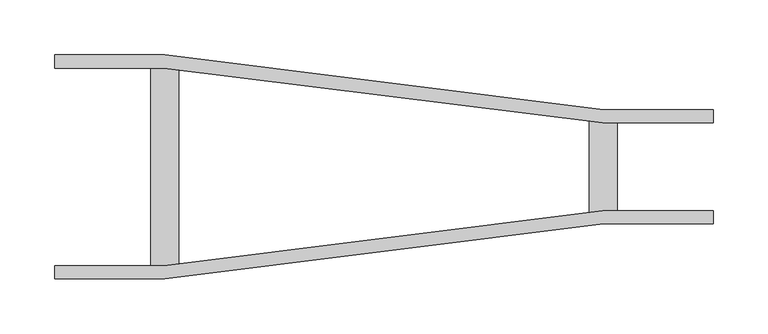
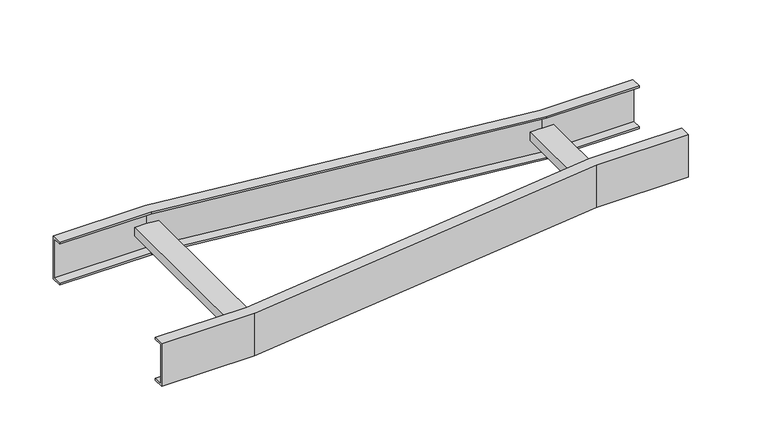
"""IFC4 building model written with IfcOpenShell, lengths in millimetres: cable carrier fitting geometry, BAKS_LD_CONN_Univarsal connector reduction_LLUS : LLUSP_H45."""

from ifc_helpers import new_model, si_unit, frame, origin, place, context, project, spatial, polyline, outline, extrude, faceted_brep, source, transform, mapped, element, save


def cable_carrier_fitting_3ee89383(model_context):
    return source(origin(), model_context, "Body", "SolidModel", [
        faceted_brep([(0.0, 90.0, -24.5), (0.0, 90.0, -22.5), (0.0, 100.0, -22.5), (0.0, 100.0, 22.5), (0.0, 90.0, 22.5), (0.0, 90.0, 24.5), (0.0, 102.0, 24.5), (0.0, 102.0, -24.5), (600.0, 40.0, -24.5), (600.0, 52.0, -24.5), (600.0, 52.0, 24.5), (600.0, 40.0, 24.5), (600.0, 40.0, 22.5), (600.0, 50.0, 22.5), (600.0, 50.0, -22.5), (600.0, 40.0, -22.5), (112.7, 98.4125, -5.0), (112.7, 98.4125, 5.0), (112.7, -98.4125, 5.0), (112.7, -98.4125, -5.0), (87.3, -100.0, -5.0), (87.3, 100.0, -5.0), (100.0, 100.0, -5.0), (100.0, -100.0, -5.0), (87.3, -100.0, 5.0), (87.3, 100.0, 5.0), (100.0, -100.0, 5.0), (100.0, 100.0, 5.0), (0.0, -90.0, 24.5), (0.0, -90.0, 22.5), (0.0, -100.0, 22.5), (0.0, -100.0, -22.5), (0.0, -90.0, -22.5), (0.0, -90.0, -24.5), (0.0, -102.0, -24.5), (0.0, -102.0, 24.5), (600.0, -40.0, 24.5), (600.0, -52.0, 24.5), (600.0, -52.0, -24.5), (600.0, -40.0, -24.5), (600.0, -40.0, -22.5), (600.0, -50.0, -22.5), (600.0, -50.0, 22.5), (600.0, -40.0, 22.5), (99.3774225, 90.0, -24.5), (99.3774225, 90.0, -22.5), (499.3774225, 40.0, -22.5), (500.0, 50.0, -22.5), (100.0, 100.0, -22.5), (100.0, 100.0, 22.5), (500.0, 50.0, 22.5), (499.3774225, 40.0, 22.5), (99.3774225, 90.0, 22.5), (99.3774225, 90.0, 24.5), (499.3774225, 40.0, 24.5), (500.1245155, 52.0, 24.5), (100.1245155, 102.0, 24.5), (100.1245155, 102.0, -24.5), (500.1245155, 52.0, -24.5), (499.3774225, 40.0, -24.5), (99.3774225, -90.0, 24.5), (99.3774225, -90.0, 22.5), (499.3774225, -40.0, 22.5), (500.0, -50.0, 22.5), (100.0, -100.0, 22.5), (100.0, -100.0, -22.5), (500.0, -50.0, -22.5), (499.3774225, -40.0, -22.5), (99.3774225, -90.0, -22.5), (99.3774225, -90.0, -24.5), (499.3774225, -40.0, -24.5), (500.1245155, -52.0, -24.5), (100.1245155, -102.0, -24.5), (100.1245155, -102.0, 24.5), (500.1245155, -52.0, 24.5), (499.3774225, -40.0, 24.5)], [[[0, 1, 2, 3, 4, 5, 6, 7]], [[8, 9, 10, 11, 12, 13, 14, 15]], [[16, 17, 18, 19]], [[20, 21, 22, 16, 19, 23]], [[21, 20, 24, 25]], [[25, 24, 26, 18, 17, 27]], [[28, 29, 30, 31, 32, 33, 34, 35]], [[36, 37, 38, 39, 40, 41, 42, 43]], [[1, 0, 44, 45]], [[2, 1, 45, 46, 15, 14, 47, 48]], [[3, 2, 48, 22, 21, 25, 27, 49]], [[4, 3, 49, 50, 13, 12, 51, 52]], [[5, 4, 52, 53]], [[6, 5, 53, 54, 11, 10, 55, 56]], [[7, 6, 56, 57]], [[0, 7, 57, 58, 9, 8, 59, 44]], [[45, 44, 59, 46]], [[48, 47, 50, 49, 27, 17, 16, 22]], [[52, 51, 54, 53]], [[56, 55, 58, 57]], [[8, 15, 46, 59]], [[14, 13, 50, 47]], [[12, 11, 54, 51]], [[10, 9, 58, 55]], [[29, 28, 60, 61]], [[30, 29, 61, 62, 43, 42, 63, 64]], [[31, 30, 64, 26, 24, 20, 23, 65]], [[32, 31, 65, 66, 41, 40, 67, 68]], [[33, 32, 68, 69]], [[34, 33, 69, 70, 39, 38, 71, 72]], [[35, 34, 72, 73]], [[28, 35, 73, 74, 37, 36, 75, 60]], [[61, 60, 75, 62]], [[64, 63, 66, 65, 23, 19, 18, 26]], [[68, 67, 70, 69]], [[72, 71, 74, 73]], [[36, 43, 62, 75]], [[42, 41, 66, 63]], [[40, 39, 70, 67]], [[38, 37, 74, 71]]]),
        extrude(outline(polyline([(487.3, 50.0), (512.7, 50.0), (512.7, -50.0), (487.3, -50.0), (487.3, 50.0)])), frame((0.0, 0.0, -5.0), z_axis=(0.0, 0.0, 1.0), x_axis=(1.0, 0.0, 0.0)), (0.0, 0.0, 1.0), 10.0),
    ])


if __name__ == "__main__":
    model = new_model("IFC4")
    model_context = context("Model", 3, world=origin())
    ifc_project = project(units=[si_unit("LENGTHUNIT", "METRE", prefix="MILLI")], contexts=[model_context])
    site = spatial("IfcSite", under=ifc_project)
    building = spatial("IfcBuilding", under=site)
    placement = place(None, origin())
    cable_carrier_fitting_shape = cable_carrier_fitting_3ee89383(model_context)
    element("IfcCableCarrierFitting", 1, ObjectType="BAKS_LD_CONN_Univarsal connector reduction_LLUS : LLUSP_H45", at=placement, inside=building, context=model_context, shape_type="MappedRepresentation", body=[
        mapped(cable_carrier_fitting_shape, transform((0.0, 0.0, 0.0), x_axis=(1.0, 0.0, 0.0), y_axis=(0.0, 1.0, 0.0), z_axis=(0.0, 0.0, 1.0))),
    ])
    save(model, "model.ifc")
